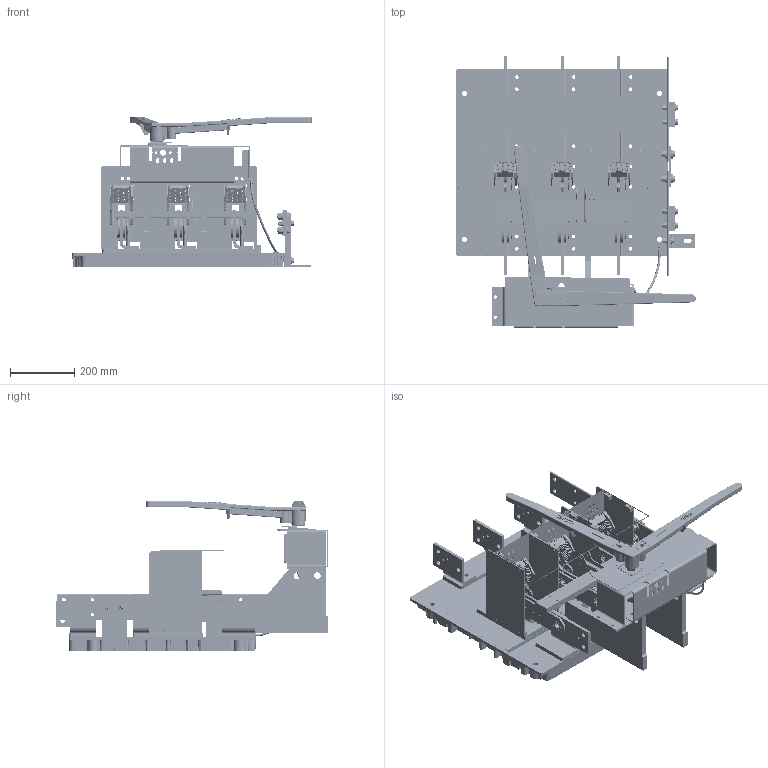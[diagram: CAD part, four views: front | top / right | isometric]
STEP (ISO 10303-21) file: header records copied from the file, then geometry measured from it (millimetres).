
FILE_DESCRIPTION(/* description */ (''),/* implementation_level */ '2;1');
FILE_NAME(/* name */ 'H:\switches\3d-templates\catalog-switches-iges-files\CATALOG-VLB447N.stp',/* time_stamp */ '2022-03-15T11:34:24-05:00',/* author */ ('MKingston'),/* organization */ (''),/* preprocessor_version */ 'ST-DEVELOPER v18.1',/* originating_system */ 'Autodesk Inventor 2022',/* authorisation */ '');
FILE_SCHEMA (('AUTOMOTIVE_DESIGN { 1 0 10303 214 3 1 1 }'));
Products named in the file (63): CATALOG-VLB347; 277-bf; 668-DB; 666-CB; 666-EB; catalog-56-qj-arcchute-assy; 363-da; 363-da_MIR; 50-QLX; 50-QRX; 56-QJS; 57-QJSB; 57-QJST; catalog-368-blade-assy; 67-AL; 67-AR; 67-fc3; 67-gc3; 246-f; 235-b; 230-a; vlb-interpole-assy; vlb-interpole-right-side-assy; 256-b; 178-b; 178-c; 256-d; 256-c; 820-bw1; 820-fw3; 221-RP,R3; 800-VLB-neutral-assembly-no-gfi; 675-a; 675-df; 676-q; 678-r; 677-a; Bolted Connection; ANSI B18.2.1 - 1/2-13 UNC - 1.5, HCSI; ASTM F436 - 1/2, CW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
Assembly tree (131 placements, depth 4):
  CATALOG-VLB347
    277-bf
    668-DB  x3
    666-CB  x3
    666-EB  x3
    catalog-56-qj-arcchute-assy  x3
      363-da
      363-da_MIR
      50-QLX
      50-QRX
      56-QJS
      57-QJSB
      57-QJST
    catalog-368-blade-assy  x3
      67-AL
      67-AR
      67-fc3
      67-gc3
    246-f  x2
    235-b
    230-a
    vlb-interpole-assy  x2
      256-b
      178-b
      178-c
    vlb-interpole-right-side-assy  x2
      256-b
      178-b
      178-c
    256-d
    256-c
    820-bw1
    820-fw3
    221-RP,R3
    800-VLB-neutral-assembly-no-gfi
      675-a  x2
      675-df  x2
      676-q  x2
      678-r
      677-a
      Bolted Connection
        ASTM F436 - 1/2, CW  x8
        ANSI B18.2.1 - 1/2-13 UNC - 1.5, HCSI  x4
        ASME B18.21.1 - 1/2, RHSLW  x4
        AS 2465 - 1/2  UNC  x4
      Bolted Connection_1
        ASTM F436 - 3/8, CW  x4
        ANSI B18.2.1 - 3/8-16 UNC - 1.75, HCSI  x4
        ANSI B18.22.1 - 3/8 - Regular - Type B  x4
        ANSI B18.21.1 - 0.375  x4
        ANSI B18.2.2 - 3/8 - 16, HNI  x4
      Bolted Connection_2
        ASTM F436 - 3/8, CW
        ANSI B18.2.1 - 3/8-16 UNC - 1.25, HCSI
        ANSI B18.22.1 - 3/8 - narrow - Type B
        ANSI B18.21.1 - 0.375
        ANSI B18.2.2 - 3/8 - 16, HNI
    672-ha
    wire-connector  x2
    vlb347.Harness1
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Bounding box: 747.67 x 852.18 x 467.84 mm (x, y, z)
Volume: 18785878 mm3; surface area: 4258516.8 mm2
Topology: 153 solids, 155 shells, 5765 faces, 14761 edges, 9594 vertices
Faces by surface type: plane 2957, cylinder 1483, cone 793, bspline 448, torus 82, sphere 2
Full cylindrical faces by diameter (mm): 1.702 x8, 3.175 x4, 3.302 x2, 3.454 x4, 3.683 x8, 3.759 x12, 3.962 x4, 4.166 x2, 4.305 x42, 4.496 x24, 4.762 x4, 4.775 x8, 4.801 x8, 4.902 x8, 4.915 x24, 4.978 x3, 5.08 x2, 5.537 x2, 5.556 x3, 5.791 x6, 6.35 x43, 6.528 x44, 7.137 x3, 7.144 x12, 7.798 x11, 7.938 x21, 8.179 x1, 8.331 x2, 8.687 x2, 8.731 x2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
Entity records: 110493 total; most frequent: CARTESIAN_POINT 28217, ORIENTED_EDGE 16624, DIRECTION 16454, EDGE_CURVE 8323, AXIS2_PLACEMENT_3D 5848, VERTEX_POINT 5447, LINE 4758, VECTOR 4758
